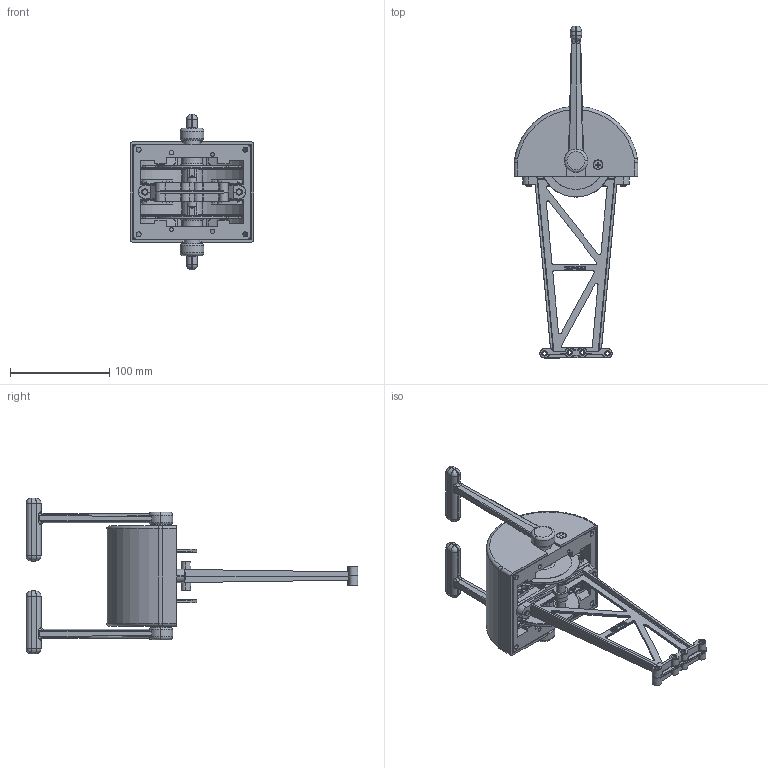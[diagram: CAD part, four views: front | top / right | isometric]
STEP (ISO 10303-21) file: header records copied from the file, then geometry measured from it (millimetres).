
FILE_DESCRIPTION (( 'STEP AP214' ), '1' );
FILE_NAME ('2009-FK.STEP', '2020-12-08T00:10:38', ( '' ), ( '' ), 'SwSTEP 2.0', 'SolidWorks 2019', '' );
FILE_SCHEMA (( 'AUTOMOTIVE_DESIGN' ));
Length unit declared in the file: inch
Products named in the file (1): 2009-FK
Bounding box: 124.72 x 335.19 x 157.28 mm (x, y, z)
Surface area: 162108.2 mm2 (no closed solid volume)
Topology: 0 solids, 25 shells, 832 faces, 2634 edges, 1766 vertices
Faces by surface type: plane 261, cylinder 248, bspline 134, cone 116, torus 62, sphere 11
Entity records: 47830 total; most frequent: CARTESIAN_POINT 15084, DIRECTION 4417, ORIENTED_EDGE 4318, EDGE_CURVE 2614, VERTEX_POINT 1766, AXIS2_PLACEMENT_3D 1655, LINE 1107, VECTOR 1107
